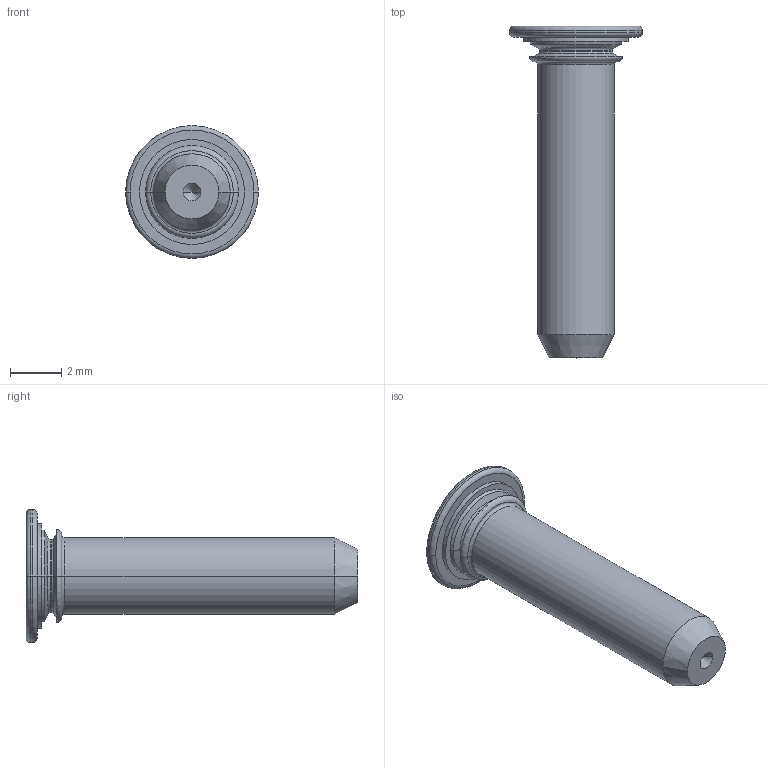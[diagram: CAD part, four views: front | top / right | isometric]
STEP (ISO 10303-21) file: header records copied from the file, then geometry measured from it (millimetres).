
FILE_DESCRIPTION((''),'2;1');
FILE_NAME('TPS-3MM-13','2022-11-23T08:06:04',('CathySun'),(''),'CREO PARAMETRIC BY PTC INC, 2019471','CREO PARAMETRIC BY PTC INC, 2019471','');
FILE_SCHEMA(('CONFIG_CONTROL_DESIGN'));
Length unit declared in the file: millimetre
Products named in the file (1): TPS-3MM-13
Bounding box: 5.2 x 13 x 5.2 mm (x, y, z)
Volume: 98.1 mm3; surface area: 166.8 mm2
Topology: 1 solids, 1 shells, 38 faces, 76 edges, 41 vertices
Faces by surface type: cone 12, torus 12, cylinder 10, plane 4
Entity records: 1008 total; most frequent: DIRECTION 202, CARTESIAN_POINT 153, ORIENTED_EDGE 148, AXIS2_PLACEMENT_3D 90, EDGE_CURVE 74, CIRCLE 52, VERTEX_POINT 41, EDGE_LOOP 41
